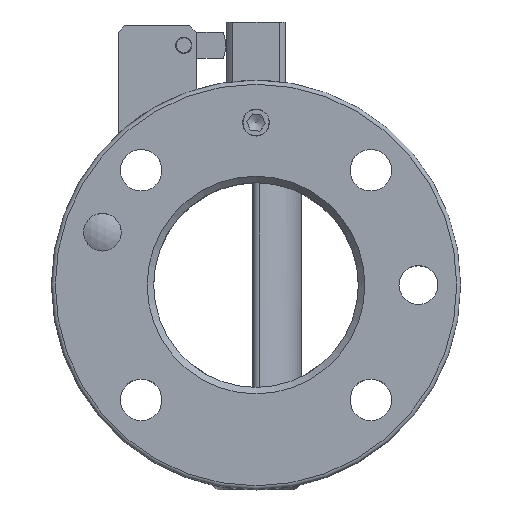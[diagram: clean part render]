
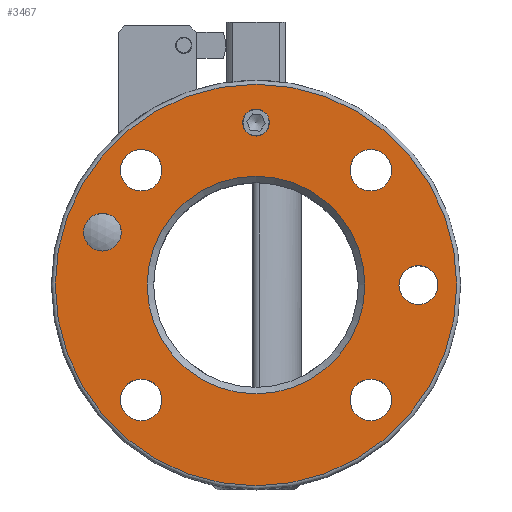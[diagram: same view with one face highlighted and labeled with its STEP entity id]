
A CAD part, top view. The second image highlights one B-rep face of the part: STEP entity #3467.
In plain terms, the highlighted planar face has unit normal (0, 0, 1).
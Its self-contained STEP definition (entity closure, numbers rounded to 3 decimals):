
#1850=CARTESIAN_POINT('',(2.067,25.0,0.0));
#1851=VERTEX_POINT('',#1850);
#1852=CARTESIAN_POINT('',(0.0,25.0,0.0));
#1853=DIRECTION('',(0.0,0.0,-1.0));
#1854=DIRECTION('',(1.0,0.0,0.0));
#1855=AXIS2_PLACEMENT_3D('',#1852,#1853,#1854);
#1856=CIRCLE('',#1855,2.067);
#1857=EDGE_CURVE('',#1851,#1851,#1856,.T.);
#3364=CARTESIAN_POINT('',(30.9,0.,0.0));
#3365=VERTEX_POINT('',#3364);
#3366=CARTESIAN_POINT('',(0.0,0.0,0.0));
#3367=DIRECTION('',(0.0,0.0,-1.0));
#3368=DIRECTION('',(-1.0,0.0,0.0));
#3369=AXIS2_PLACEMENT_3D('',#3366,#3367,#3368);
#3370=CIRCLE('',#3369,30.9);
#3371=EDGE_CURVE('',#3365,#3365,#3370,.T.);
#3379=CARTESIAN_POINT('',(0.0,0.0,0.0));
#3380=DIRECTION('',(0.0,0.0,-1.0));
#3381=DIRECTION('',(-1.0,0.0,0.0));
#3382=AXIS2_PLACEMENT_3D('',#3379,#3380,#3381);
#3383=PLANE('',#3382);
#3384=ORIENTED_EDGE('',*,*,#3371,.F.);
#3385=EDGE_LOOP('',(#3384));
#3386=FACE_OUTER_BOUND('',#3385,.T.);
#3387=CARTESIAN_POINT('',(16.75,0.,0.0));
#3388=VERTEX_POINT('',#3387);
#3389=CARTESIAN_POINT('',(0.0,0.0,0.0));
#3390=DIRECTION('',(0.0,0.0,1.0));
#3391=DIRECTION('',(-1.0,0.0,0.0));
#3392=AXIS2_PLACEMENT_3D('',#3389,#3390,#3391);
#3393=CIRCLE('',#3392,16.75);
#3394=EDGE_CURVE('',#3388,#3388,#3393,.T.);
#3395=ORIENTED_EDGE('',*,*,#3394,.F.);
#3396=EDGE_LOOP('',(#3395));
#3397=FACE_BOUND('',#3396,.T.);
#3398=CARTESIAN_POINT('',(28.0,0.0,0.0));
#3399=VERTEX_POINT('',#3398);
#3400=CARTESIAN_POINT('',(25.0,0.0,0.0));
#3401=DIRECTION('',(0.0,0.0,-1.0));
#3402=DIRECTION('',(1.0,0.0,0.0));
#3403=AXIS2_PLACEMENT_3D('',#3400,#3401,#3402);
#3404=CIRCLE('',#3403,3.);
#3405=EDGE_CURVE('',#3399,#3399,#3404,.T.);
#3406=ORIENTED_EDGE('',*,*,#3405,.T.);
#3407=EDGE_LOOP('',(#3406));
#3408=FACE_BOUND('',#3407,.T.);
#3409=ORIENTED_EDGE('',*,*,#1857,.T.);
#3410=EDGE_LOOP('',(#3409));
#3411=FACE_BOUND('',#3410,.T.);
#3412=CARTESIAN_POINT('',(20.878,-17.678,0.0));
#3413=VERTEX_POINT('',#3412);
#3414=CARTESIAN_POINT('',(17.678,-17.678,0.0));
#3415=DIRECTION('',(0.0,0.0,-1.0));
#3416=DIRECTION('',(-1.0,0.0,0.0));
#3417=AXIS2_PLACEMENT_3D('',#3414,#3415,#3416);
#3418=CIRCLE('',#3417,3.2);
#3419=EDGE_CURVE('',#3413,#3413,#3418,.T.);
#3420=ORIENTED_EDGE('',*,*,#3419,.T.);
#3421=EDGE_LOOP('',(#3420));
#3422=FACE_BOUND('',#3421,.T.);
#3423=CARTESIAN_POINT('',(20.878,17.678,0.0));
#3424=VERTEX_POINT('',#3423);
#3425=CARTESIAN_POINT('',(17.678,17.678,0.0));
#3426=DIRECTION('',(0.0,0.0,-1.0));
#3427=DIRECTION('',(-1.0,0.0,0.0));
#3428=AXIS2_PLACEMENT_3D('',#3425,#3426,#3427);
#3429=CIRCLE('',#3428,3.2);
#3430=EDGE_CURVE('',#3424,#3424,#3429,.T.);
#3431=ORIENTED_EDGE('',*,*,#3430,.T.);
#3432=EDGE_LOOP('',(#3431));
#3433=FACE_BOUND('',#3432,.T.);
#3434=CARTESIAN_POINT('',(-14.478,17.678,0.0));
#3435=VERTEX_POINT('',#3434);
#3436=CARTESIAN_POINT('',(-17.678,17.678,0.0));
#3437=DIRECTION('',(0.0,0.0,-1.0));
#3438=DIRECTION('',(-1.0,0.0,0.0));
#3439=AXIS2_PLACEMENT_3D('',#3436,#3437,#3438);
#3440=CIRCLE('',#3439,3.2);
#3441=EDGE_CURVE('',#3435,#3435,#3440,.T.);
#3442=ORIENTED_EDGE('',*,*,#3441,.T.);
#3443=EDGE_LOOP('',(#3442));
#3444=FACE_BOUND('',#3443,.T.);
#3445=CARTESIAN_POINT('',(-14.478,-17.678,0.0));
#3446=VERTEX_POINT('',#3445);
#3447=CARTESIAN_POINT('',(-17.678,-17.678,0.0));
#3448=DIRECTION('',(0.0,0.0,-1.0));
#3449=DIRECTION('',(-1.0,0.0,0.0));
#3450=AXIS2_PLACEMENT_3D('',#3447,#3448,#3449);
#3451=CIRCLE('',#3450,3.2);
#3452=EDGE_CURVE('',#3446,#3446,#3451,.T.);
#3453=ORIENTED_EDGE('',*,*,#3452,.T.);
#3454=EDGE_LOOP('',(#3453));
#3455=FACE_BOUND('',#3454,.T.);
#3456=CARTESIAN_POINT('',(-20.738,8.139,0.0));
#3457=VERTEX_POINT('',#3456);
#3458=CARTESIAN_POINT('',(-23.638,8.139,0.0));
#3459=DIRECTION('',(0.0,0.0,-1.0));
#3460=DIRECTION('',(-1.0,0.0,0.0));
#3461=AXIS2_PLACEMENT_3D('',#3458,#3459,#3460);
#3462=CIRCLE('',#3461,2.9);
#3463=EDGE_CURVE('',#3457,#3457,#3462,.T.);
#3464=ORIENTED_EDGE('',*,*,#3463,.T.);
#3465=EDGE_LOOP('',(#3464));
#3466=FACE_BOUND('',#3465,.T.);
#3467=ADVANCED_FACE('',(#3386,#3397,#3408,#3411,#3422,#3433,#3444,#3455,#3466),#3383,.F.);
